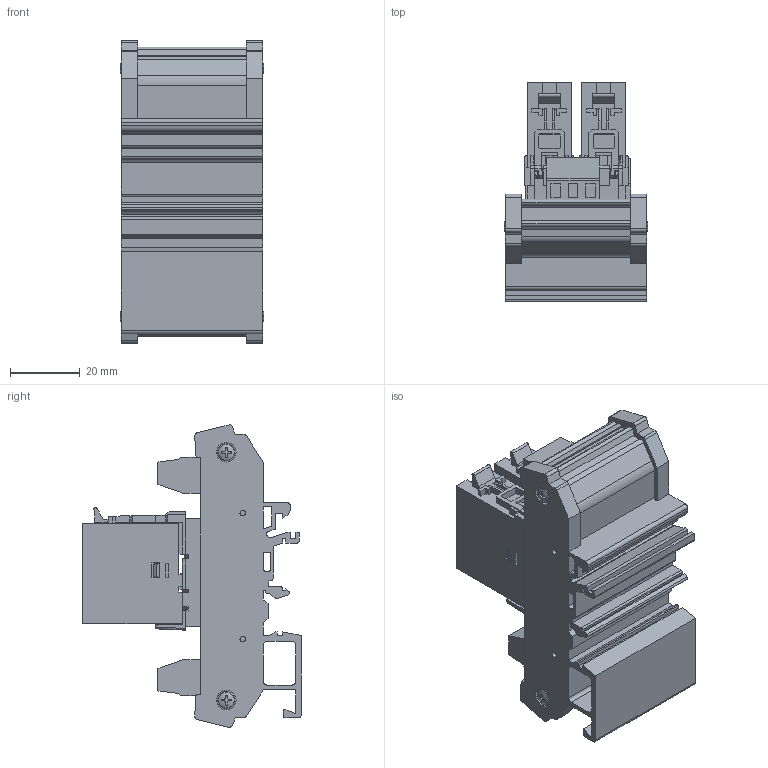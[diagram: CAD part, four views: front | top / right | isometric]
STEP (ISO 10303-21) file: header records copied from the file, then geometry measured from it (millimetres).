
FILE_DESCRIPTION (( 'STEP AP203' ), '1' );
FILE_NAME ('2弇耀郪蚾 俋倛.STEP', '2022-12-28T08:12:30', ( '' ), ( '' ), 'SwSTEP 2.0', 'SolidWorks 2018', '' );
FILE_SCHEMA (( 'CONFIG_CONTROL_DESIGN' ));
Products named in the file (3): RFT-1C-L 俋倛; 零件117^2位模组装总装图; 2弇耀郪蚾 俋倛
Assembly tree (3 placements, depth 2):
  2弇耀郪蚾 俋倛
    RFT-1C-L 俋倛  x2
    零件117^2位模组装总装图
Bounding box: 41.1 x 62.48 x 86.48 mm (x, y, z)
Volume: 83511.5 mm3; surface area: 45128.3 mm2
Topology: 5 solids, 14 shells, 3810 faces, 11012 edges, 7271 vertices
Faces by surface type: plane 2624, cylinder 1058, bspline 56, sphere 48, cone 16, torus 8
Entity records: 117370 total; most frequent: CARTESIAN_POINT 23589, ORIENTED_EDGE 20340, DIRECTION 18747, EDGE_CURVE 10170, LINE 7521, VECTOR 7521, VERTEX_POINT 6723, AXIS2_PLACEMENT_3D 5613
